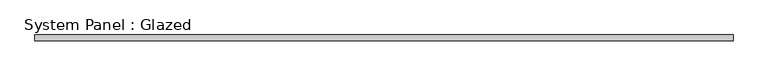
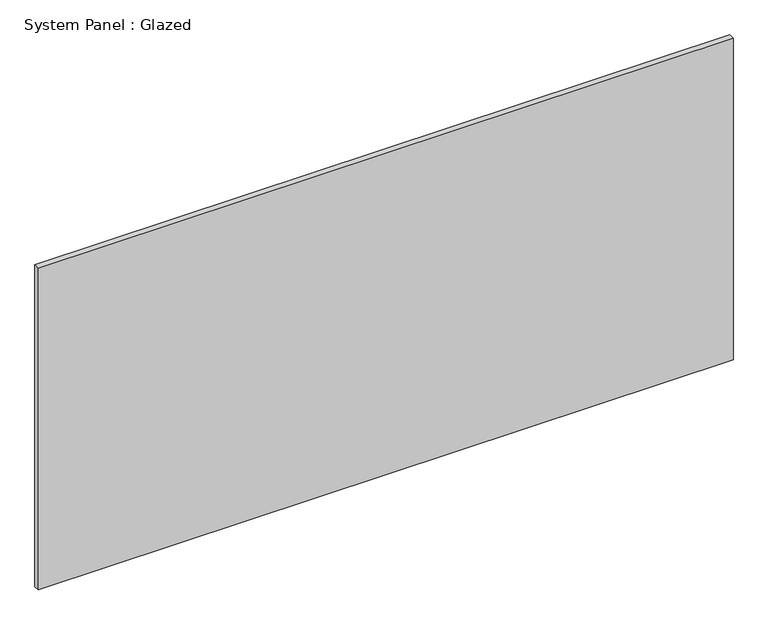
"""IFC4 building model written with IfcOpenShell, lengths in millimetres: plate geometry, System Panel : Glazed."""

from ifc_helpers import new_model, si_unit, origin, origin_with_axes, place, context, project, spatial, polyline, outline, extrude, source, transform, mapped, element, save


def system_panel_glazed_2a6c68b7(model_context):
    return source(origin(), model_context, "Body", "SweptSolid", [
        extrude(outline(polyline([(1492.25, 19.05), (-1492.25, 19.05), (-1492.25, 44.45), (1492.25, 44.45), (1492.25, 19.05)])), origin_with_axes(), (0.0, 0.0, 1.0), 1460.5),
    ])


if __name__ == "__main__":
    model = new_model("IFC4")
    model_context = context("Model", 3, world=origin())
    ifc_project = project(units=[si_unit("LENGTHUNIT", "METRE", prefix="MILLI")], contexts=[model_context])
    site = spatial("IfcSite", under=ifc_project)
    building = spatial("IfcBuilding", under=site)
    placement = place(None, origin())
    system_panel_glazed_shape = system_panel_glazed_2a6c68b7(model_context)
    element("IfcPlate", 1, ObjectType="System Panel : Glazed", at=placement, inside=building, context=model_context, shape_type="MappedRepresentation", body=[
        mapped(system_panel_glazed_shape, transform((0.0, 0.0, 0.0), x_axis=(1.0, 0.0, 0.0), y_axis=(0.0, 1.0, 0.0), z_axis=(0.0, 0.0, 1.0))),
    ])
    save(model, "model.ifc")
